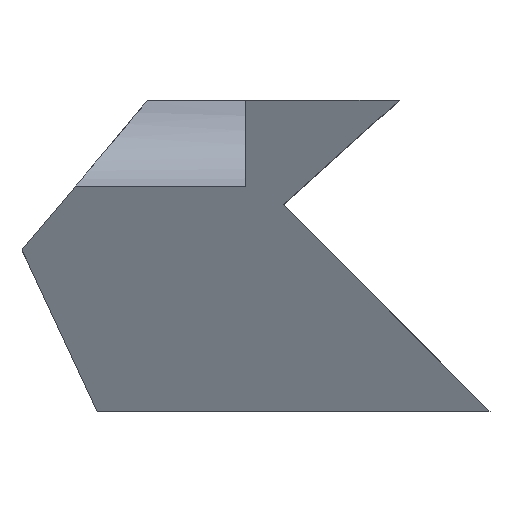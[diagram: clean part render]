
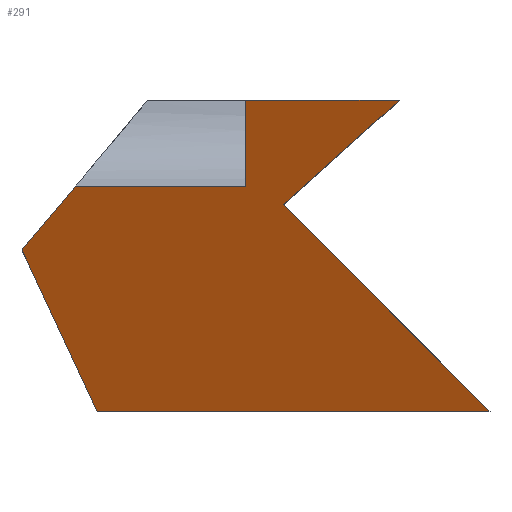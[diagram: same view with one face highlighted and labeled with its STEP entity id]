
A CAD part, top view. The second image highlights one B-rep face of the part: STEP entity #291.
In plain terms, the highlighted planar face has unit normal (0, -0.423, 0.906).
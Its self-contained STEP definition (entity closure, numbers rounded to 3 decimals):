
#30=FACE_OUTER_BOUND('',#45,.T.);
#45=EDGE_LOOP('',(#246,#247,#248,#249,#250,#251,#252,#253));
#59=LINE('',#433,#96);
#63=LINE('',#441,#100);
#65=LINE('',#446,#102);
#77=LINE('',#470,#114);
#80=LINE('',#476,#117);
#81=LINE('',#479,#118);
#82=LINE('',#482,#119);
#83=LINE('',#484,#120);
#96=VECTOR('',#353,10.);
#100=VECTOR('',#359,10.);
#102=VECTOR('',#365,10.);
#114=VECTOR('',#385,10.);
#117=VECTOR('',#390,10.);
#118=VECTOR('',#393,10.);
#119=VECTOR('',#398,10.);
#120=VECTOR('',#401,10.);
#131=VERTEX_POINT('',#430);
#132=VERTEX_POINT('',#432);
#134=VERTEX_POINT('',#438);
#135=VERTEX_POINT('',#440);
#136=VERTEX_POINT('',#444);
#144=VERTEX_POINT('',#468);
#146=VERTEX_POINT('',#474);
#147=VERTEX_POINT('',#478);
#159=EDGE_CURVE('',#132,#131,#59,.T.);
#163=EDGE_CURVE('',#134,#135,#63,.T.);
#166=EDGE_CURVE('',#136,#134,#65,.T.);
#178=EDGE_CURVE('',#144,#136,#77,.T.);
#181=EDGE_CURVE('',#146,#144,#80,.T.);
#182=EDGE_CURVE('',#147,#135,#81,.T.);
#184=EDGE_CURVE('',#131,#147,#82,.T.);
#185=EDGE_CURVE('',#132,#146,#83,.T.);
#246=ORIENTED_EDGE('',*,*,#182,.T.);
#247=ORIENTED_EDGE('',*,*,#163,.F.);
#248=ORIENTED_EDGE('',*,*,#166,.F.);
#249=ORIENTED_EDGE('',*,*,#178,.F.);
#250=ORIENTED_EDGE('',*,*,#181,.F.);
#251=ORIENTED_EDGE('',*,*,#185,.F.);
#252=ORIENTED_EDGE('',*,*,#159,.T.);
#253=ORIENTED_EDGE('',*,*,#184,.T.);
#276=PLANE('',#331);
#291=ADVANCED_FACE('',(#30),#276,.F.);
#331=AXIS2_PLACEMENT_3D('',#483,#399,#400);
#353=DIRECTION('',(-1.,0.,0.));
#359=DIRECTION('',(0.605,0.721,0.336));
#365=DIRECTION('',(-0.389,0.835,0.389));
#385=DIRECTION('',(-1.,0.,0.));
#390=DIRECTION('',(0.672,-0.672,-0.313));
#393=DIRECTION('',(-1.,0.,0.));
#398=DIRECTION('',(0.,-0.906,-0.423));
#399=DIRECTION('center_axis',(0.,0.423,-0.906));
#400=DIRECTION('ref_axis',(0.,-0.906,-0.423));
#401=DIRECTION('',(-0.709,-0.639,-0.298));
#430=CARTESIAN_POINT('',(-62.114,79.,0.));
#432=CARTESIAN_POINT('',(-23.114,79.,0.));
#433=CARTESIAN_POINT('',(-23.114,79.,0.));
#438=CARTESIAN_POINT('',(-119.,41.,-17.72));
#440=CARTESIAN_POINT('',(-105.366,57.249,-10.143));
#441=CARTESIAN_POINT('',(-85.293,81.171,1.012));
#444=CARTESIAN_POINT('',(-99.881,0.,-36.838));
#446=CARTESIAN_POINT('',(-110.733,23.27,-25.987));
#468=CARTESIAN_POINT('',(0.,0.,-36.838));
#470=CARTESIAN_POINT('',(0.,0.,-36.838));
#474=CARTESIAN_POINT('',(-52.522,52.522,-12.347));
#476=CARTESIAN_POINT('',(-49.246,49.246,-13.875));
#478=CARTESIAN_POINT('',(-62.114,57.249,-10.143));
#479=CARTESIAN_POINT('',(-87.114,57.249,-10.143));
#482=CARTESIAN_POINT('',(-62.114,72.235,-3.154));
#483=CARTESIAN_POINT('Origin',(0.,79.,0.));
#484=CARTESIAN_POINT('',(-17.298,84.237,2.442));
